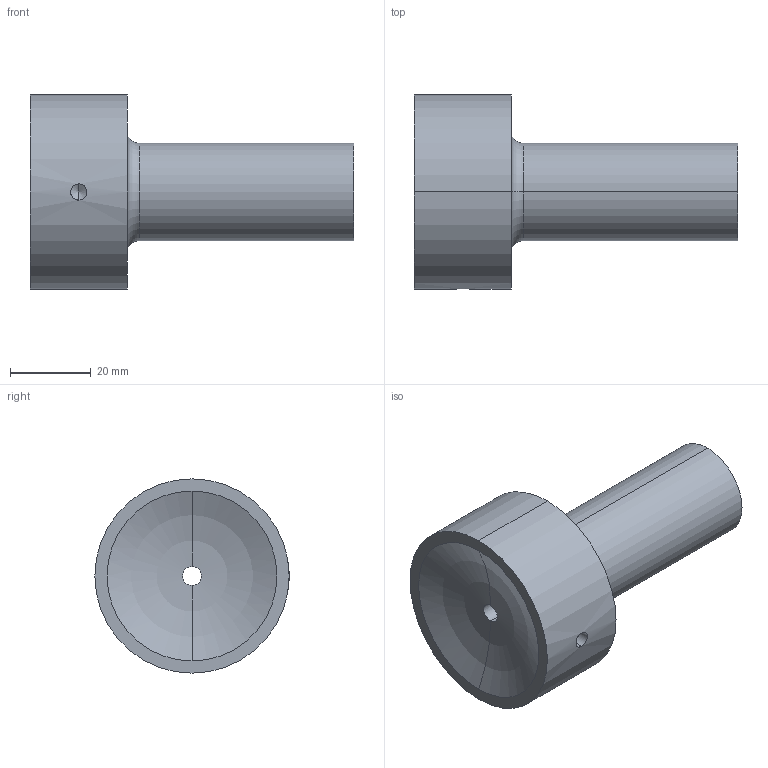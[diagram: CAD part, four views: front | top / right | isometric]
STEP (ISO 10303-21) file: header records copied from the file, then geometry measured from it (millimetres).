
FILE_DESCRIPTION (( 'STEP AP214' ), '1' );
FILE_NAME ('BR51 24x56x4,5x40.STEP', '2019-06-05T15:29:09', ( 'August' ), ( '' ), 'SwSTEP 2.0', 'SolidWorks 2018', '' );
FILE_SCHEMA (( 'AUTOMOTIVE_DESIGN' ));
Length unit declared in the file: millimetre
Products named in the file (1): BR51 24x56x4,5x40
Bounding box: 80 x 48 x 48 mm (x, y, z)
Volume: 63095.5 mm3; surface area: 12970.1 mm2
Topology: 1 solids, 1 shells, 17 faces, 36 edges, 21 vertices
Faces by surface type: cylinder 6, cone 4, torus 4, plane 3
Entity records: 538 total; most frequent: CARTESIAN_POINT 127, DIRECTION 90, ORIENTED_EDGE 68, AXIS2_PLACEMENT_3D 40, EDGE_CURVE 34, CIRCLE 22, EDGE_LOOP 21, VERTEX_POINT 21
